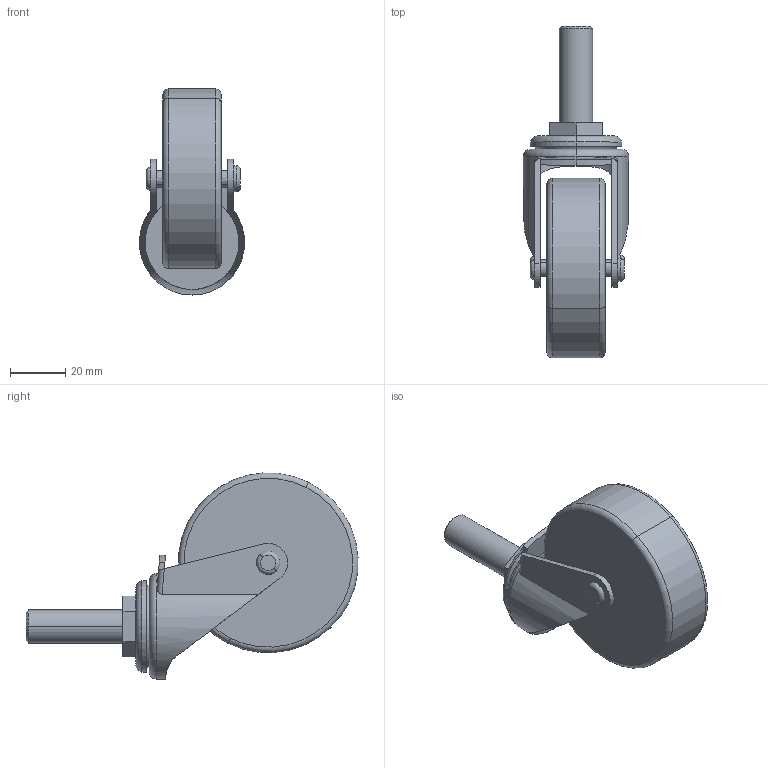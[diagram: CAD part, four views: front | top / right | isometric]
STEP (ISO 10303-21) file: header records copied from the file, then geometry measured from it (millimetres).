
FILE_DESCRIPTION (( 'STEP AP214' ), '1' );
FILE_NAME ('LT-65RH M12-35.STEP', '2020-03-23T14:01:54', ( '' ), ( '' ), 'SwSTEP 2.0', 'SolidWorks 2019', '' );
FILE_SCHEMA (( 'AUTOMOTIVE_DESIGN' ));
Length unit declared in the file: millimetre
Products named in the file (7): LT-65RH M12-35_Wheel; LT-65RH M12-35_partsA; LT M12-35_bolt; LT-65RH M12-35_partsB; LT M12_nut; LT-65RH M12-35; LT-65RH M12-35_jiku
Assembly tree (6 placements, depth 2):
  LT-65RH M12-35
    LT-65RH M12-35_partsB
    LT M12_nut
    LT-65RH M12-35_Wheel
    LT-65RH M12-35_jiku
    LT-65RH M12-35_partsA
    LT M12-35_bolt
Bounding box: 38 x 119.94 x 74.44 mm (x, y, z)
Volume: 86470 mm3; surface area: 24594.9 mm2
Topology: 6 solids, 6 shells, 79 faces, 176 edges, 112 vertices
Faces by surface type: plane 34, cylinder 29, torus 12, cone 4
Entity records: 2600 total; most frequent: CARTESIAN_POINT 512, DIRECTION 418, ORIENTED_EDGE 352, EDGE_CURVE 176, AXIS2_PLACEMENT_3D 170, VERTEX_POINT 112, EDGE_LOOP 90, CIRCLE 82
